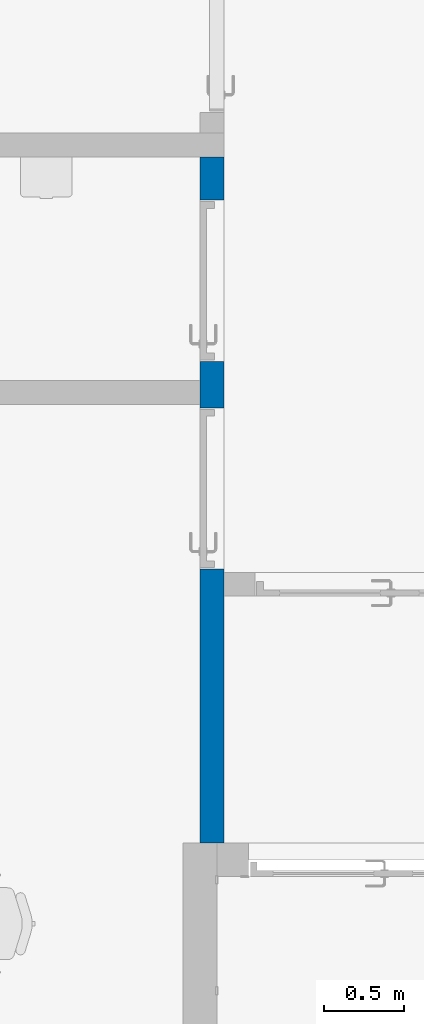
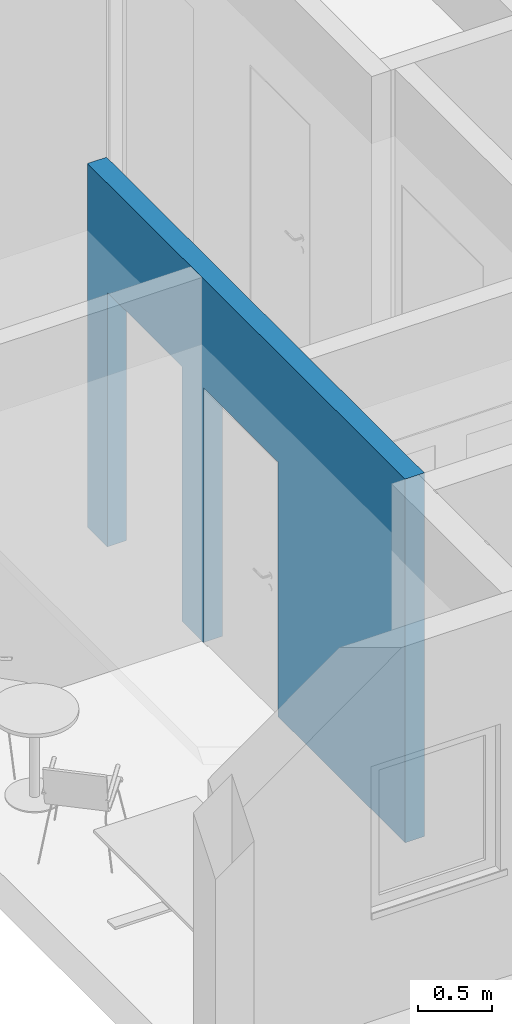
# One storey, part 3 of 58: 1 wall, 2 openings.
"""IFC2X3 building model written with IfcOpenShell, lengths in millimetres."""

from ifc_helpers import new_model, entity, si_unit, converted_unit, derived_unit, direction, frame, frame_2d, origin, place, context, subcontext, project, spatial, rectangle, extrude, material, layer, layer_set, layer_usage, type_object, element, save


model = new_model("IFC2X3")

# Units and contexts
model_context = context("Model", 3, precision=0.01, world=origin(), true_north=direction((0.7716245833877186, 0.6360782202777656)))
body_context = subcontext(model_context, "Body", "Model", "MODEL_VIEW")
ifc_project = project(units=[si_unit("LENGTHUNIT", "METRE", prefix="MILLI"), si_unit("AREAUNIT", "SQUARE_METRE"), converted_unit("PLANEANGLEUNIT", "DEGREE", entity("IfcPlaneAngleMeasure", 0.017453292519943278), si_unit("PLANEANGLEUNIT", "RADIAN"), dimensions=[0, 0, 0, 0, 0, 0, 0]), derived_unit("THERMALTRANSMITTANCEUNIT", [(si_unit("MASSUNIT", "GRAM", prefix="KILO"), 1), (si_unit("THERMODYNAMICTEMPERATUREUNIT", "KELVIN"), -1), (si_unit("TIMEUNIT", "SECOND"), -3)])], contexts=[model_context])

# Site, building, storey
site_placement = place(None, origin())
site = spatial("IfcSite", under=ifc_project, at=site_placement, Name="Default", CompositionType="ELEMENT")
building_placement = place(site_placement, origin())
building = spatial("IfcBuilding", under=site, at=building_placement, CompositionType="ELEMENT")
storey_placement = place(building_placement, frame((0.0, 0.0, 31140.0)))
storey = spatial("IfcBuildingStorey", under=building, at=storey_placement, Name="PLAN U1", CompositionType="ELEMENT", Elevation=31140.000000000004)

# Wall, openings
ifc_material = material(Name="Eksist. vegg")
ifc_layer = layer(ifc_material, 150.0)
ifc_layer_set = layer_set([ifc_layer], Name="Basic Wall:240 Eksist. Innervegg 150 mm")
ifc_layer_usage = layer_usage(ifc_layer_set, "AXIS2", "NEGATIVE", 75.0)
wall_type = type_object("IfcWallType", Name="Basic Wall:240 Eksist. Innervegg 150 mm", PredefinedType="STANDARD", material=ifc_layer_set)
wall_placement = place(storey_placement, frame((261192.9244464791, 55021.25555007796, 0.0), z_axis=(0.0, 0.0, 1.0), x_axis=(0.0, 1.0, 0.0)))
wall = element("IfcWallStandardCase", 1, at=wall_placement, inside=storey, type_object=wall_type, material=ifc_layer_usage, Name="Basic Wall:240 Eksist. Innervegg 150 mm", ObjectType="Basic Wall:240 Eksist. Innervegg 150 mm", context=body_context, shape_type="SweptSolid", body=[
    extrude(rectangle(XDim=4292.999999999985, YDim=150.00000000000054, at=frame_2d((2146.4999999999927, 0.0), x_axis=(1.0, 0.0))), origin(), (0.0, 0.0, 1.0), 2999.9999999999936),
])
opening_1_placement = place(wall_placement, frame((1714.0, -75.0, 0.0)))
element("IfcOpeningElement", 2, at=opening_1_placement, cuts=wall, Name="Enfløyet:2441 Innvendig 10x21M:1", ObjectType="Opening", context=body_context, shape_type="SweptSolid", body=[
    extrude(rectangle(XDim=2100.0, YDim=1009.9999999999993, at=frame_2d((1049.9999999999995, 504.99999999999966), x_axis=(1.0, 0.0))), frame((0.0, 0.0, 0.0), z_axis=(0.0, 1.0, 0.0), x_axis=(0.0, 0.0, 1.0)), (0.0, 0.0, 1.0), 150.0),
])
opening_2_placement = place(wall_placement, frame((3014.0, -75.0, 0.0)))
element("IfcOpeningElement", 3, at=opening_2_placement, cuts=wall, Name="Enfløyet:2441 Innvendig 10x21M:1", ObjectType="Opening", context=body_context, shape_type="SweptSolid", body=[
    extrude(rectangle(XDim=2100.0, YDim=1009.9999999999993, at=frame_2d((1049.9999999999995, 504.99999999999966), x_axis=(1.0, 0.0))), frame((0.0, 0.0, 0.0), z_axis=(0.0, 1.0, 0.0), x_axis=(0.0, 0.0, 1.0)), (0.0, 0.0, 1.0), 150.0),
])

save(model, "model.ifc")
